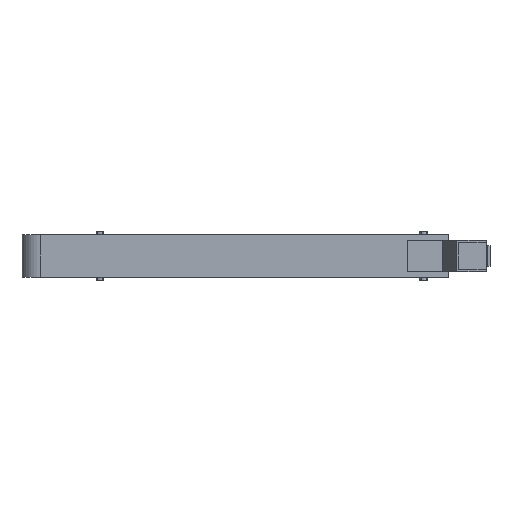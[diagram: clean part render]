
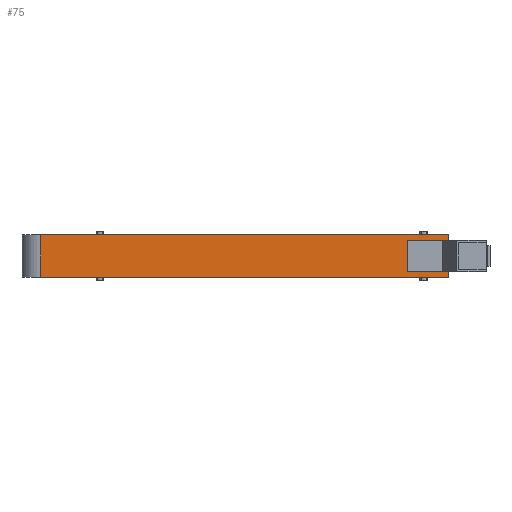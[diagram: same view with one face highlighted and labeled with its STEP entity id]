
A CAD part, front view. The second image highlights one B-rep face of the part: STEP entity #75.
In plain terms, the highlighted planar face has unit normal (0, -1, 0).
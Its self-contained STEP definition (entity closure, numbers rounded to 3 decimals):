
#32 = EDGE_CURVE ( 'NONE', #3558, #2863, #2808, .T. ) ;
#34 = EDGE_CURVE ( 'NONE', #3622, #3619, #2804, .T. ) ;
#35 = EDGE_CURVE ( 'NONE', #2864, #3621, #2802, .T. ) ;
#36 = EDGE_CURVE ( 'NONE', #2863, #2864, #2800, .T. ) ;
#75 = ADVANCED_FACE ( 'NONE', ( #2739 ), #2309, .F. ) ;
#171 = EDGE_CURVE ( 'NONE', #3619, #3558, #1887, .T. ) ;
#175 = EDGE_CURVE ( 'NONE', #3621, #3622, #1874, .T. ) ;
#276 = AXIS2_PLACEMENT_3D ( 'NONE', #2262, #2297, #2288 ) ;
#1416 = CARTESIAN_POINT ( 'NONE',  ( 253., 0., -12.5 ) ) ;
#1417 = CARTESIAN_POINT ( 'NONE',  ( 11., 0., -12.5 ) ) ;
#1713 = CARTESIAN_POINT ( 'NONE',  ( 253., 0., -8.3 ) ) ;
#1774 = CARTESIAN_POINT ( 'NONE',  ( 253., 0., 8.3 ) ) ;
#1776 = CARTESIAN_POINT ( 'NONE',  ( 11., 0., 12.5 ) ) ;
#1777 = CARTESIAN_POINT ( 'NONE',  ( 253., 0., 12.5 ) ) ;
#1872 = VECTOR ( 'NONE', #4014, 1000. ) ;
#1874 = LINE ( 'NONE', #4008, #1872 ) ;
#1878 = VECTOR ( 'NONE', #2893, 1000. ) ;
#1887 = LINE ( 'NONE', #2887, #1878 ) ;
#2262 = CARTESIAN_POINT ( 'NONE',  ( 0., 0., 12.5 ) ) ;
#2288 = DIRECTION ( 'NONE',  ( 0., 0., 1. ) ) ;
#2297 = DIRECTION ( 'NONE',  ( 0., 1., 0. ) ) ;
#2309 = PLANE ( 'NONE',  #276 ) ;
#2739 = FACE_OUTER_BOUND ( 'NONE', #3434, .T. ) ;
#2797 = VECTOR ( 'NONE', #3085, 1000. ) ;
#2799 = VECTOR ( 'NONE', #3087, 1000. ) ;
#2800 = LINE ( 'NONE', #3086, #2797 ) ;
#2801 = VECTOR ( 'NONE', #3089, 1000. ) ;
#2802 = LINE ( 'NONE', #3088, #2799 ) ;
#2804 = LINE ( 'NONE', #3090, #2801 ) ;
#2805 = VECTOR ( 'NONE', #3094, 1000. ) ;
#2808 = LINE ( 'NONE', #3097, #2805 ) ;
#2863 = VERTEX_POINT ( 'NONE', #1416 ) ;
#2864 = VERTEX_POINT ( 'NONE', #1417 ) ;
#2887 = CARTESIAN_POINT ( 'NONE',  ( 253., 0., 12.5 ) ) ;
#2893 = DIRECTION ( 'NONE',  ( 0., 0., -1. ) ) ;
#3085 = DIRECTION ( 'NONE',  ( -1., 0., 0. ) ) ;
#3086 = CARTESIAN_POINT ( 'NONE',  ( 0., 0., -12.5 ) ) ;
#3087 = DIRECTION ( 'NONE',  ( 0., 0., 1. ) ) ;
#3088 = CARTESIAN_POINT ( 'NONE',  ( 11., 0., 12.5 ) ) ;
#3089 = DIRECTION ( 'NONE',  ( 0., 0., -1. ) ) ;
#3090 = CARTESIAN_POINT ( 'NONE',  ( 253., 0., 12.5 ) ) ;
#3094 = DIRECTION ( 'NONE',  ( 0., 0., -1. ) ) ;
#3097 = CARTESIAN_POINT ( 'NONE',  ( 253., 0., 12.5 ) ) ;
#3434 = EDGE_LOOP ( 'NONE', ( #3665, #3664, #3663, #3662, #3661, #3660 ) ) ;
#3558 = VERTEX_POINT ( 'NONE', #1713 ) ;
#3619 = VERTEX_POINT ( 'NONE', #1774 ) ;
#3621 = VERTEX_POINT ( 'NONE', #1776 ) ;
#3622 = VERTEX_POINT ( 'NONE', #1777 ) ;
#3660 = ORIENTED_EDGE ( 'NONE', *, *, #175, .F. ) ;
#3661 = ORIENTED_EDGE ( 'NONE', *, *, #34, .F. ) ;
#3662 = ORIENTED_EDGE ( 'NONE', *, *, #171, .F. ) ;
#3663 = ORIENTED_EDGE ( 'NONE', *, *, #32, .F. ) ;
#3664 = ORIENTED_EDGE ( 'NONE', *, *, #36, .F. ) ;
#3665 = ORIENTED_EDGE ( 'NONE', *, *, #35, .F. ) ;
#4008 = CARTESIAN_POINT ( 'NONE',  ( 0., 0., 12.5 ) ) ;
#4014 = DIRECTION ( 'NONE',  ( 1., 0., 0. ) ) ;
